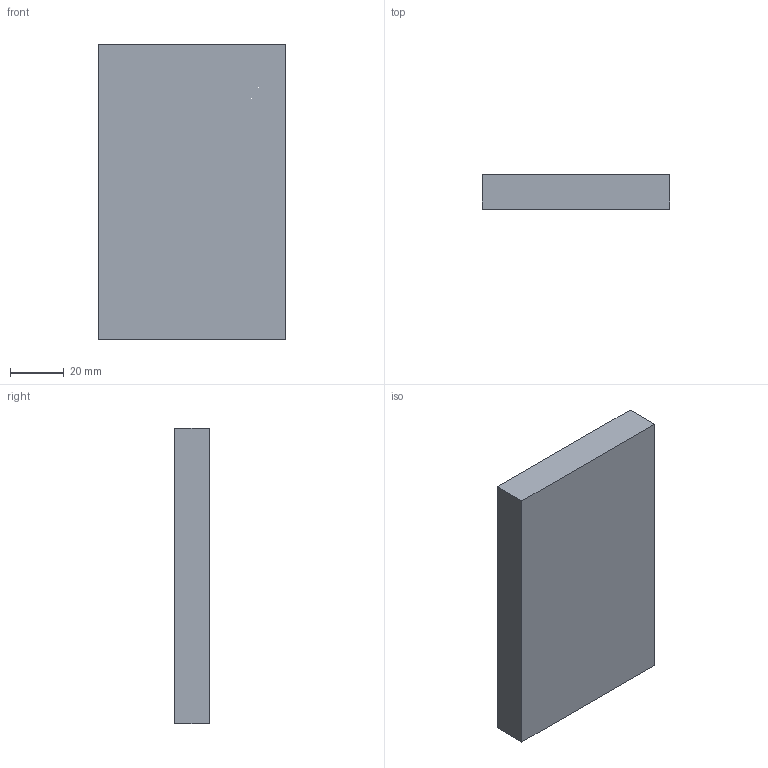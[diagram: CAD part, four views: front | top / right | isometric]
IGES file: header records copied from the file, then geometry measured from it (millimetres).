
Start section: SolidWorks IGES file using analytic representation for surfaces
Global section: file name: C:\Documents and Settings\Pc\Escritorio\Modelos 3D\Capítulo 4 (Caída)\PRACTICAS\P-11\practica 2.IGS; native system: SolidWorks 2010; preprocessor: SolidWorks 2010; author: Pc; date: 100623.114016; units: millimetre
Bounding box: 70 x 13 x 110 mm (x, y, z)
Surface area: 20080 mm2 (no closed solid volume)
Topology: 0 solids, 0 shells, 6 faces, 24 edges, 24 vertices
Faces by surface type: bspline 6
